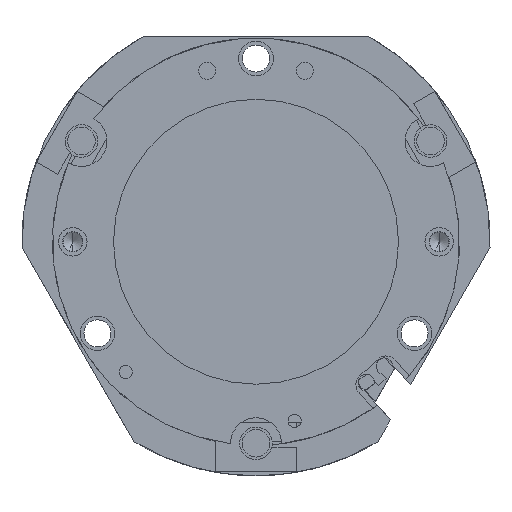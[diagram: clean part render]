
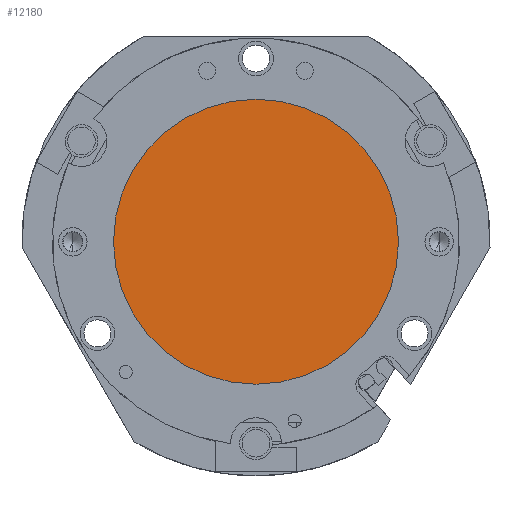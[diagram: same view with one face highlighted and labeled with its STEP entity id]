
A CAD part, front view. The second image highlights one B-rep face of the part: STEP entity #12180.
In plain terms, the highlighted planar face has unit normal (0, -1, 0) as drawn and (0, 1, 0) by its records, which use the part's own axes.
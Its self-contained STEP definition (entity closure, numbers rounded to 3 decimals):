
#1074 = DIRECTION ( 'NONE',  ( 1., 0., 0. ) ) ;
#1337 = CARTESIAN_POINT ( 'NONE',  ( 0., 5.8, 0. ) ) ;
#2095 = DIRECTION ( 'NONE',  ( 0., 1., 0. ) ) ;
#2304 = CARTESIAN_POINT ( 'NONE',  ( 0., 5.8, 0. ) ) ;
#2603 = ORIENTED_EDGE ( 'NONE', *, *, #5301, .T. ) ;
#3427 = ORIENTED_EDGE ( 'NONE', *, *, #7171, .T. ) ;
#3543 = CARTESIAN_POINT ( 'NONE',  ( 0., 5.8, -35. ) ) ;
#5301 = EDGE_CURVE ( 'NONE', #13332, #12864, #12190, .T. ) ;
#6028 = CARTESIAN_POINT ( 'NONE',  ( 0., 5.8, 35. ) ) ;
#7171 = EDGE_CURVE ( 'NONE', #12864, #13332, #10355, .T. ) ;
#7213 = DIRECTION ( 'NONE',  ( 1., 0., 0. ) ) ;
#7706 = EDGE_LOOP ( 'NONE', ( #3427, #2603 ) ) ;
#8245 = CARTESIAN_POINT ( 'NONE',  ( 0., 5.8, 0. ) ) ;
#9789 = DIRECTION ( 'NONE',  ( 0., 1., 0. ) ) ;
#10355 = CIRCLE ( 'NONE', #12714, 35. ) ;
#10615 = DIRECTION ( 'NONE',  ( 1., 0., 0. ) ) ;
#10677 = FACE_OUTER_BOUND ( 'NONE', #7706, .T. ) ;
#10683 = AXIS2_PLACEMENT_3D ( 'NONE', #1337, #2095, #1074 ) ;
#11932 = AXIS2_PLACEMENT_3D ( 'NONE', #2304, #9789, #10615 ) ;
#12180 = ADVANCED_FACE ( 'NONE', ( #10677 ), #12697, .T. ) ;
#12190 = CIRCLE ( 'NONE', #10683, 35. ) ;
#12376 = DIRECTION ( 'NONE',  ( 0., 1., 0. ) ) ;
#12697 = PLANE ( 'NONE',  #11932 ) ;
#12714 = AXIS2_PLACEMENT_3D ( 'NONE', #8245, #12376, #7213 ) ;
#12864 = VERTEX_POINT ( 'NONE', #6028 ) ;
#13332 = VERTEX_POINT ( 'NONE', #3543 ) ;
